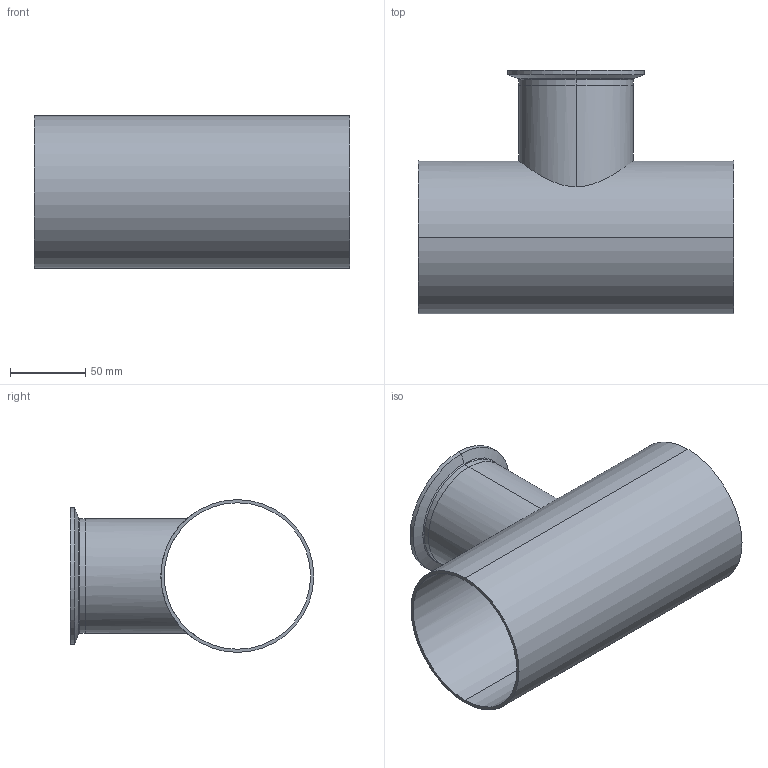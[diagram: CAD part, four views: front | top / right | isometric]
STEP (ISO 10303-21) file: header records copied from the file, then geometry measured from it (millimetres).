
FILE_DESCRIPTION (( 'STEP AP214' ), '1' );
FILE_NAME ('TE7RWWC6L4.0x3.0-...STEP', '2016-05-23T09:37:55', ( 'eran' ), ( '' ), 'SwSTEP 2.0', 'SolidWorks 2016', '' );
FILE_SCHEMA (( 'AUTOMOTIVE_DESIGN' ));
Length unit declared in the file: millimetre
Products named in the file (1): TE7RWWC6L4.0x3.0-..
Bounding box: 209.6 x 161.9 x 101.6 mm (x, y, z)
Volume: 162622.4 mm3; surface area: 159963.1 mm2
Topology: 2 solids, 2 shells, 36 faces, 88 edges, 58 vertices
Faces by surface type: cylinder 14, bspline 10, plane 6, cone 6
Entity records: 2106 total; most frequent: CARTESIAN_POINT 1201, DIRECTION 190, ORIENTED_EDGE 176, EDGE_CURVE 88, AXIS2_PLACEMENT_3D 85, VERTEX_POINT 58, CIRCLE 58, EDGE_LOOP 44
